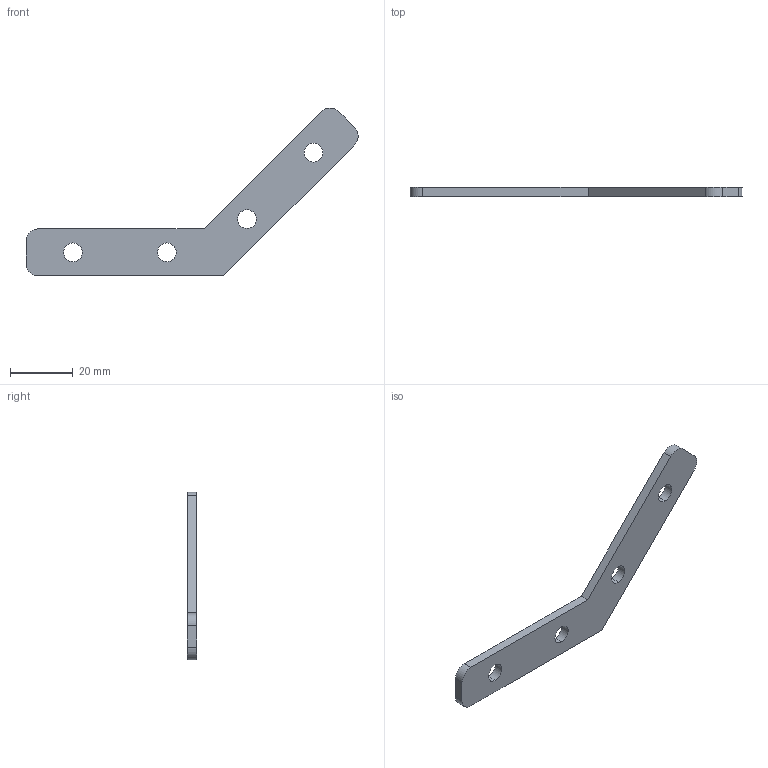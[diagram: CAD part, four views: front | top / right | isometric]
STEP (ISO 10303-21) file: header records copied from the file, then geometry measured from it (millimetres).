
FILE_DESCRIPTION (( 'STEP AP214' ), '1' );
FILE_NAME ('Ï-4-óãîë135-30.STEP', '2017-05-17T14:06:04', ( '' ), ( '' ), 'SwSTEP 2.0', 'SolidWorks 2014', '' );
FILE_SCHEMA (( 'AUTOMOTIVE_DESIGN' ));
Length unit declared in the file: millimetre
Products named in the file (2): Ï-4-óãîë135-30
Bounding box: 106.06 x 3 x 53.56 mm (x, y, z)
Volume: 5019.5 mm3; surface area: 4361.9 mm2
Topology: 1 solids, 1 shells, 20 faces, 54 edges, 36 vertices
Faces by surface type: cylinder 12, plane 8
Entity records: 707 total; most frequent: DIRECTION 122, CARTESIAN_POINT 112, ORIENTED_EDGE 108, EDGE_CURVE 54, AXIS2_PLACEMENT_3D 46, VERTEX_POINT 36, VECTOR 30, LINE 30
